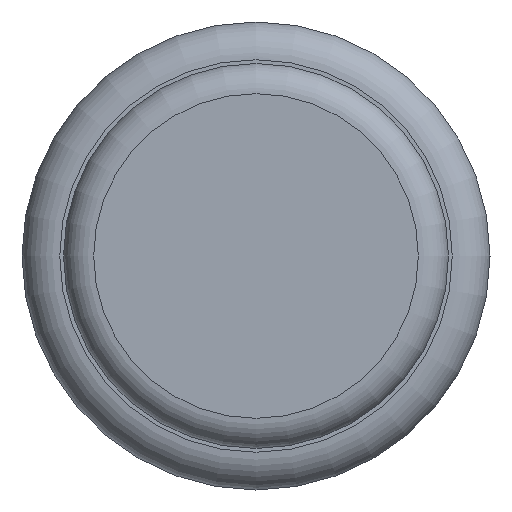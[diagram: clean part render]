
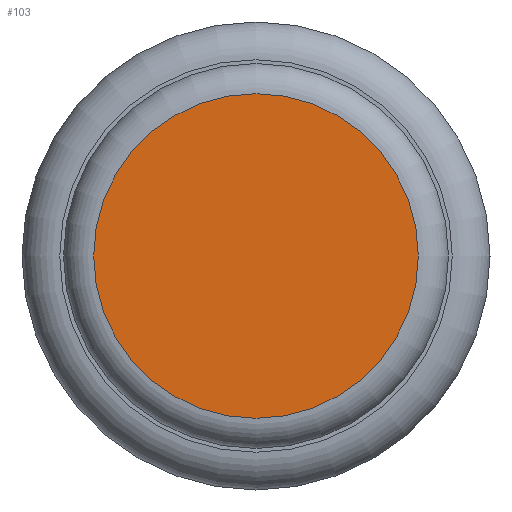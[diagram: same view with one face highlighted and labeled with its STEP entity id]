
A CAD part, left-side view. The second image highlights one B-rep face of the part: STEP entity #103.
In plain terms, the highlighted planar face has unit normal (-1, 0, 0).
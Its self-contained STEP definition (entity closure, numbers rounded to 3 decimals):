
#103=ADVANCED_FACE('',(#202),#204,.T.);
#202=FACE_BOUND('',#203,.T.);
#203=EDGE_LOOP('',(#262));
#204=PLANE('',#205);
#205=AXIS2_PLACEMENT_3D('',#206,#207,#208);
#206=CARTESIAN_POINT('',(-7.4,0.,0.));
#207=DIRECTION('',(-1.,0.,0.));
#208=DIRECTION('',(0.,0.,1.));
#262=ORIENTED_EDGE('',*,*,#280,.T.);
#280=EDGE_CURVE('',#298,#298,#299,.T.);
#298=VERTEX_POINT('',#342);
#299=CIRCLE('',#343,1.075);
#342=CARTESIAN_POINT('',(-7.4,0.,1.075));
#343=AXIS2_PLACEMENT_3D('',#344,#345,#346);
#344=CARTESIAN_POINT('',(-7.4,0.,0.));
#345=DIRECTION('',(-1.,0.,0.));
#346=DIRECTION('',(0.,0.,1.));
